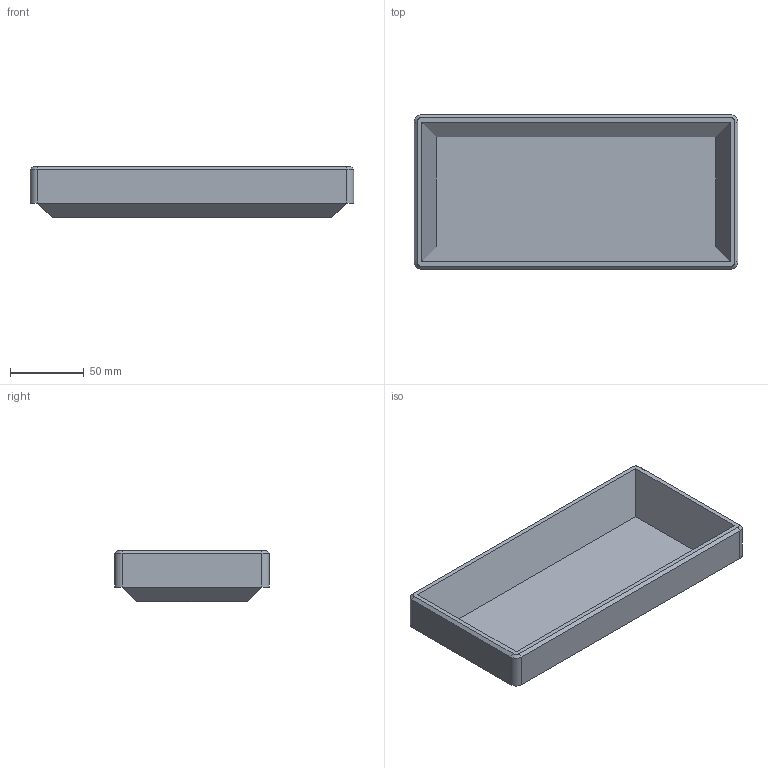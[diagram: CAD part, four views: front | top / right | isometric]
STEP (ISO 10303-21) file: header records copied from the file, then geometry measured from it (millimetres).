
FILE_DESCRIPTION(/* description */ (''),/* implementation_level */ '2;1');
FILE_NAME(/* name */ '//sgw91-nas/home/Backup/Documents/3D_Printing/My_Builds/Tissue_Box/Tissue_Box_accessory_Cover_basic-top.step',/* time_stamp */ '2021-11-16T14:45:40+11:00',/* author */ (''),/* organization */ (''),/* preprocessor_version */ 'ST-DEVELOPER v18.1',/* originating_system */ 'Autodesk Translation Framework v10.10.0.1391',/* authorisation */ '');
FILE_SCHEMA (('AUTOMOTIVE_DESIGN { 1 0 10303 214 3 1 1 }'));
Length unit declared in the file: millimetre
Products named in the file (1): Tissue_Box
Bounding box: 220 x 105 x 35 mm (x, y, z)
Volume: 235022.4 mm3; surface area: 76121.8 mm2
Topology: 1 solids, 1 shells, 28 faces, 64 edges, 40 vertices
Faces by surface type: plane 20, cone 4, cylinder 4
Entity records: 809 total; most frequent: DIRECTION 134, CARTESIAN_POINT 133, ORIENTED_EDGE 128, EDGE_CURVE 64, LINE 52, VECTOR 52, AXIS2_PLACEMENT_3D 41, VERTEX_POINT 40
